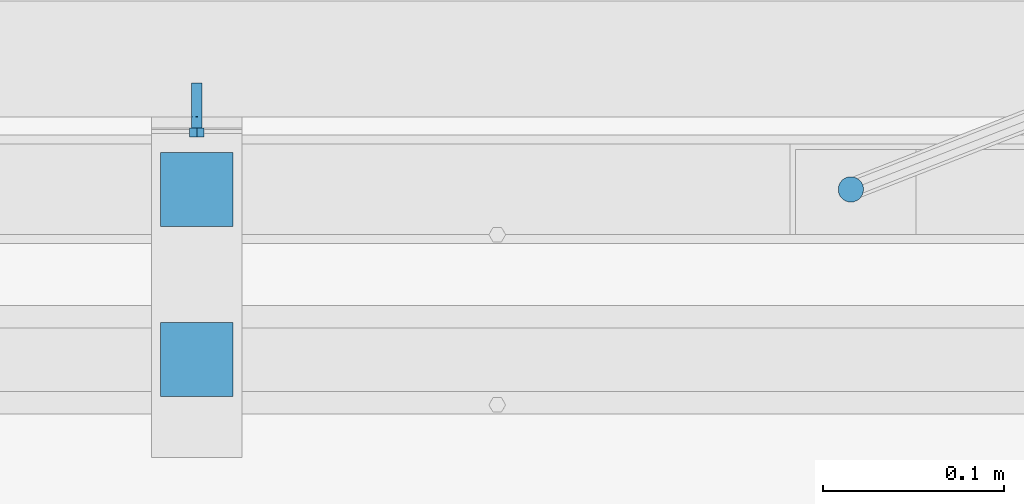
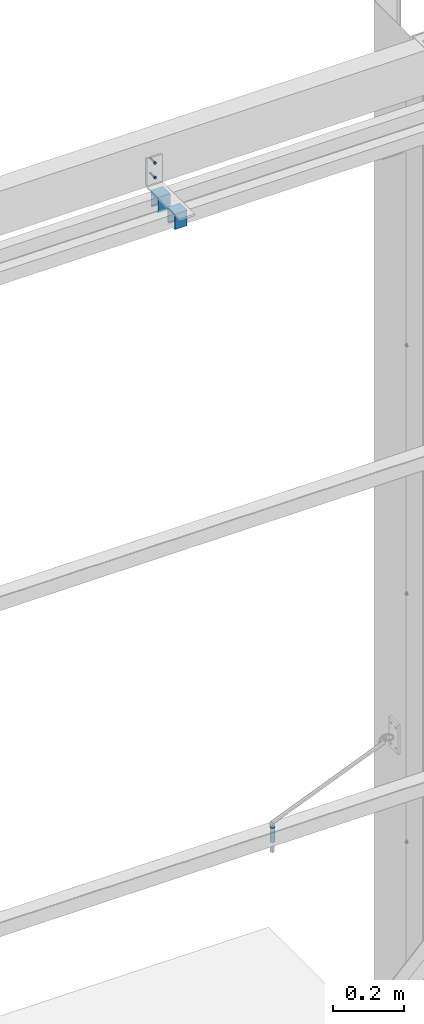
# One storey, part 61 of 91: 2 discrete accessories, 2 mechanical fasteners, 2 elements without a shape of their own.
"""IFC2X3 building model written with IfcOpenShell, lengths in millimetres."""

from ifc_helpers import new_model, si_unit, frame, origin_with_axes, origin_2d_with_axis, place, context, subcontext, project, spatial, polyline, circle, c_section, outline, extrude, source, transform, mapped, material, type_object, element, aggregate, save


model = new_model("IFC2X3")

# Units and contexts
model_context = context("Model", 3, precision=1e-05, world=origin_with_axes())
body_context = subcontext(model_context, "Body", "Model", "MODEL_VIEW")
ifc_project = project(units=[si_unit("LENGTHUNIT", "METRE", prefix="MILLI"), si_unit("AREAUNIT", "SQUARE_METRE"), si_unit("VOLUMEUNIT", "CUBIC_METRE"), si_unit("MASSUNIT", "GRAM", prefix="KILO"), si_unit("TIMEUNIT", "SECOND"), si_unit("PLANEANGLEUNIT", "RADIAN"), si_unit("SOLIDANGLEUNIT", "STERADIAN"), si_unit("THERMODYNAMICTEMPERATUREUNIT", "DEGREE_CELSIUS"), si_unit("LUMINOUSINTENSITYUNIT", "LUMEN")], contexts=[model_context])

# Site, building, storey
site_placement = place(None, origin_with_axes())
site = spatial("IfcSite", under=ifc_project, at=site_placement, Name="Undefined", CompositionType="ELEMENT")
building_placement = place(site_placement, origin_with_axes())
building = spatial("IfcBuilding", under=site, at=building_placement, Name="Undefined", CompositionType="ELEMENT")
storey_placement = place(building_placement, origin_with_axes())
storey = spatial("IfcBuildingStorey", under=building, at=storey_placement, Name="Undefined", CompositionType="ELEMENT", Elevation=0.0)

# Assembly, mechanical fastener
assembly_1_placement = place(storey_placement, origin_with_axes())
assembly_1 = element("IfcElementAssembly", 1, at=assembly_1_placement, inside=storey, Name="SLIDING DOOR", AssemblyPlace="NOTDEFINED", PredefinedType="RIGID_FRAME")
ifc_material_1 = material(Name="8.8S")
discrete_accessory_type_1 = type_object("IfcDiscreteAccessoryType", Name="Bolt assembly")
shared_shape_1 = source(origin_with_axes(), body_context, "Body", "SweptSolid", [
    extrude(circle(Radius=7.0, at=origin_2d_with_axis()), frame((0.0, 0.0033333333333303, 0.0), z_axis=(0.0, 1.0, 0.0), x_axis=(1.0, 0.0, 0.0)), (0.0, 0.0, 1.0), 50.1),
])
mechanical_fastener_1_placement = place(assembly_1_placement, frame((-108233.343767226, 84712.15, 1147.34), z_axis=(1.0, 0.0, 0.0), x_axis=(0.0, -1.0, 0.0)))
mechanical_fastener_1 = element("IfcMechanicalFastener", 2, at=mechanical_fastener_1_placement, type_object=discrete_accessory_type_1, material=ifc_material_1, Name="Bolt assembly", NominalDiameter=12.0, NominalLength=49.9966659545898, context=body_context, shape_type="MappedRepresentation", body=[
    mapped(shared_shape_1, transform((0.0, 0.0, 0.0))),
])
aggregate(assembly_1, [mechanical_fastener_1])

# Assembly, mechanical fastener, discrete accessories
assembly_2_placement = place(storey_placement, origin_with_axes())
assembly_2 = element("IfcElementAssembly", 3, at=assembly_2_placement, inside=storey, Name="DOOR BRACKET", AssemblyPlace="NOTDEFINED", PredefinedType="RIGID_FRAME")
ifc_material_2 = material(Name="TEK_11TPIM")
shared_shape_2 = source(origin_with_axes(), body_context, "Body", "SweptSolid", [
    extrude(circle(Radius=3.0, at=origin_2d_with_axis()), frame((0.0, -6.0, 0.0), z_axis=(0.0, 1.0, 0.0), x_axis=(1.0, 0.0, 0.0)), (0.0, 0.0, 1.0), 6.1),
    extrude(outline(polyline([(4.61880215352, 0.0), (2.30940107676, 4.00000000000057), (-2.30940107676, 4.00000000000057), (-4.61880215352, 0.0), (-2.30940107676, -4.00000000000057), (2.30940107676, -4.00000000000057), (4.61880215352, 0.0)])), frame((0.0, -11.1000000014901, 0.0), z_axis=(0.0, 1.0, 0.0), x_axis=(1.0, 0.0, 0.0)), (0.0, 0.0, 1.0), 5.0),
    extrude(circle(Radius=3.0, at=origin_2d_with_axis()), frame((0.0, -6.10000000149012, 0.0), z_axis=(0.0, 1.0, 0.0), x_axis=(1.0, 0.0, 0.0)), (0.0, 0.0, 1.0), 25.0),
    extrude(circle(Radius=3.0, at=origin_2d_with_axis()), frame((0.0, -6.10000000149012, 0.0), z_axis=(0.0, 1.0, 0.0), x_axis=(1.0, 0.0, 0.0)), (0.0, 0.0, 1.0), 0.1),
    extrude(circle(Radius=3.0, at=origin_2d_with_axis()), frame((0.0, 0.0, 0.0), z_axis=(0.0, 1.0, 0.0), x_axis=(1.0, 0.0, 0.0)), (0.0, 0.0, 1.0), 0.1),
    extrude(outline(polyline([(3.46410161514, 0.0), (1.73205080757, 3.00000000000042), (-1.73205080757, 3.00000000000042), (-3.46410161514, 0.0), (-1.73205080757, -3.00000000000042), (1.73205080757, -3.00000000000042), (3.46410161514, 0.0)])), frame((0.0, 0.1, 0.0), z_axis=(0.0, 1.0, 0.0), x_axis=(1.0, 0.0, 0.0)), (0.0, 0.0, 1.0), 0.1),
])
mechanical_fastener_2_placement = place(assembly_2_placement, frame((-108594.59, 84752.15, 3524.0), z_axis=(1.0, 0.0, 0.0), x_axis=(0.0, 0.0, -1.0)))
mechanical_fastener_2 = element("IfcMechanicalFastener", 4, at=mechanical_fastener_2_placement, type_object=discrete_accessory_type_1, material=ifc_material_2, Name="Bolt assembly", NominalDiameter=6.0, NominalLength=25.0, context=body_context, shape_type="MappedRepresentation", body=[
    mapped(shared_shape_2, transform((0.0, 0.0, 0.0))),
    mapped(shared_shape_2, transform((50.0, 0.0, 0.0))),
])
ifc_material_3 = material(Name="STEEL/250")
discrete_accessory_type_2 = type_object("IfcDiscreteAccessoryType", Name="SLIDING DOOR BRACKET")
discrete_accessory_1_placement = place(assembly_2_placement, frame((-108614.59, 84618.15, 3417.5), z_axis=(0.0, -1.0, 0.0), x_axis=(1.0, 0.0, 0.0)))
discrete_accessory_1 = element("IfcDiscreteAccessory", 5, at=discrete_accessory_1_placement, type_object=discrete_accessory_type_2, material=ifc_material_3, Name="SLIDING DOOR BRACKET", ObjectType="CC41-1.5-7-53", context=body_context, shape_type="SweptSolid", body=[
    extrude(c_section(Depth=41.0, Width=53.0, WallThickness=1.5, Girth=7.0, at=origin_2d_with_axis()), frame((40.0, 0.0, 0.0), z_axis=(-1.0, 0.0, 0.0), x_axis=(0.0, -1.0, 0.0)), (0.0, 0.0, 1.0), 40.0),
])
discrete_accessory_2_placement = place(assembly_2_placement, frame((-108614.59, 84712.15, 3417.5), z_axis=(0.0, -1.0, 0.0), x_axis=(1.0, 0.0, 0.0)))
discrete_accessory_2 = element("IfcDiscreteAccessory", 6, at=discrete_accessory_2_placement, type_object=discrete_accessory_type_2, material=ifc_material_3, Name="SLIDING DOOR BRACKET", ObjectType="CC41-1.5-7-53", context=body_context, shape_type="SweptSolid", body=[
    extrude(c_section(Depth=41.0, Width=53.0, WallThickness=1.5, Girth=7.0, at=origin_2d_with_axis()), frame((40.0, 0.0, 0.0), z_axis=(-1.0, 0.0, 0.0), x_axis=(0.0, -1.0, 0.0)), (0.0, 0.0, 1.0), 40.0),
])
aggregate(assembly_2, [mechanical_fastener_2, discrete_accessory_1, discrete_accessory_2])

save(model, "model.ifc")
